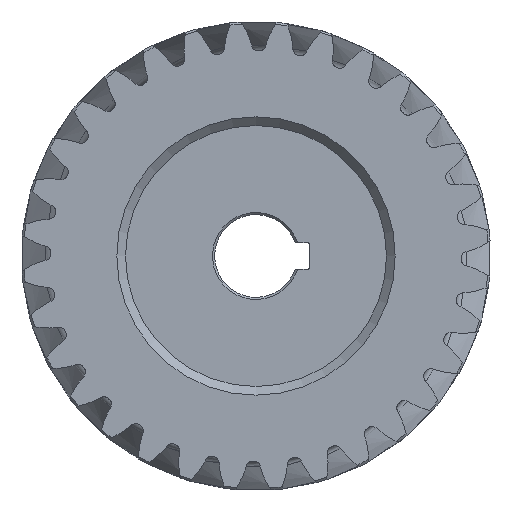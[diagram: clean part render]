
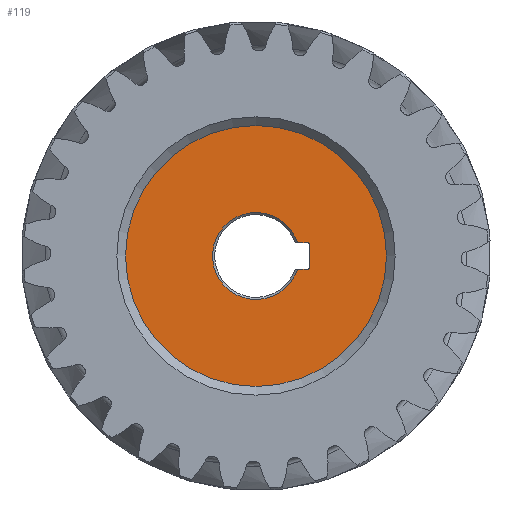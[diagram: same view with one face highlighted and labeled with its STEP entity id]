
A CAD part, left-side view. The second image highlights one B-rep face of the part: STEP entity #119.
In plain terms, the highlighted planar face has unit normal (-1, 0, 0).
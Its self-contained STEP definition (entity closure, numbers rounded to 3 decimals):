
#119=ADVANCED_FACE('',(#2562,#2564),#2566,.T.);
#2562=FACE_BOUND('',#2563,.T.);
#2563=EDGE_LOOP('',(#9267));
#2564=FACE_BOUND('',#2565,.T.);
#2565=EDGE_LOOP('',(#9268,#9269,#9270,#9271,#9272,#9273));
#2566=PLANE('',#2567);
#2567=AXIS2_PLACEMENT_3D('',#2568,#2569,#2570);
#2568=CARTESIAN_POINT('',(8.,0.,0.));
#2569=DIRECTION('',(-1.,-0.,-0.));
#2570=DIRECTION('',(0.,0.,-1.));
#9267=ORIENTED_EDGE('',*,*,#10857,.T.);
#9268=ORIENTED_EDGE('',*,*,#10858,.F.);
#9269=ORIENTED_EDGE('',*,*,#10645,.F.);
#9270=ORIENTED_EDGE('',*,*,#10648,.F.);
#9271=ORIENTED_EDGE('',*,*,#10651,.F.);
#9272=ORIENTED_EDGE('',*,*,#10654,.F.);
#9273=ORIENTED_EDGE('',*,*,#10660,.F.);
#10645=EDGE_CURVE('',#11445,#11447,#11448,.F.);
#10648=EDGE_CURVE('',#11452,#11445,#11453,.F.);
#10651=EDGE_CURVE('',#11457,#11452,#11458,.F.);
#10654=EDGE_CURVE('',#11462,#11457,#11463,.F.);
#10660=EDGE_CURVE('',#11472,#11462,#11474,.F.);
#10857=EDGE_CURVE('',#11864,#11864,#11865,.T.);
#10858=EDGE_CURVE('',#11447,#11472,#11866,.F.);
#11445=VERTEX_POINT('',#12784);
#11447=VERTEX_POINT('',#12788);
#11448=LINE('',#12789,#12790);
#11452=VERTEX_POINT('',#12802);
#11453=CIRCLE('',#12803,0.25);
#11457=VERTEX_POINT('',#12815);
#11458=LINE('',#12816,#12817);
#11462=VERTEX_POINT('',#12826);
#11463=CIRCLE('',#12827,0.25);
#11472=VERTEX_POINT('',#12851);
#11474=LINE('',#12858,#12859);
#11864=VERTEX_POINT('',#13901);
#11865=CIRCLE('',#13902,30.);
#11866=CIRCLE('',#13906,10.);
#12784=CARTESIAN_POINT('',(8.,-12.05,3.));
#12788=CARTESIAN_POINT('',(8.,-9.539,3.));
#12789=CARTESIAN_POINT('',(8.,-9.539,3.));
#12790=VECTOR('',#12791,1.);
#12791=DIRECTION('',(0.,-1.,0.));
#12802=CARTESIAN_POINT('',(8.,-12.3,2.75));
#12803=AXIS2_PLACEMENT_3D('',#12804,#12805,#12806);
#12804=CARTESIAN_POINT('',(8.,-12.05,2.75));
#12805=DIRECTION('',(1.,0.,0.));
#12806=DIRECTION('',(0.,0.,1.));
#12815=CARTESIAN_POINT('',(8.,-12.3,-2.75));
#12816=CARTESIAN_POINT('',(8.,-12.3,2.75));
#12817=VECTOR('',#12818,1.);
#12818=DIRECTION('',(0.,0.,-1.));
#12826=CARTESIAN_POINT('',(8.,-12.05,-3.));
#12827=AXIS2_PLACEMENT_3D('',#12828,#12829,#12830);
#12828=CARTESIAN_POINT('',(8.,-12.05,-2.75));
#12829=DIRECTION('',(1.,0.,0.));
#12830=DIRECTION('',(0.,-1.,0.));
#12851=CARTESIAN_POINT('',(8.,-9.539,-3.));
#12858=CARTESIAN_POINT('',(8.,-12.05,-3.));
#12859=VECTOR('',#12860,1.);
#12860=DIRECTION('',(0.,1.,0.));
#13901=CARTESIAN_POINT('',(8.,0.,-30.));
#13902=AXIS2_PLACEMENT_3D('',#13903,#13904,#13905);
#13903=CARTESIAN_POINT('',(8.,0.,0.));
#13904=DIRECTION('',(-1.,-0.,-0.));
#13905=DIRECTION('',(0.,0.,-1.));
#13906=AXIS2_PLACEMENT_3D('',#13907,#13908,#13909);
#13907=CARTESIAN_POINT('',(8.,0.,0.));
#13908=DIRECTION('',(1.,0.,0.));
#13909=DIRECTION('',(0.,-0.954,-0.3));
